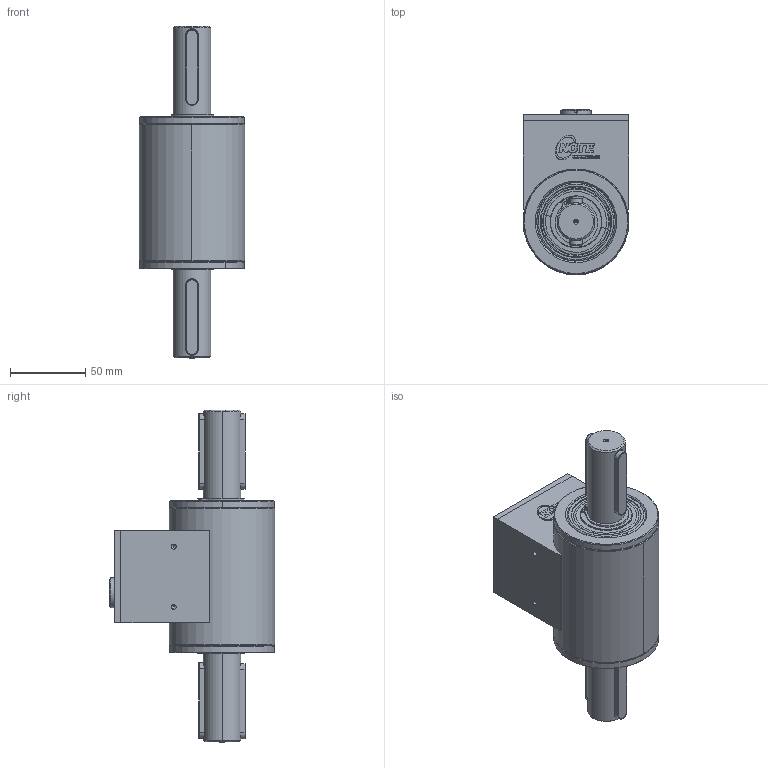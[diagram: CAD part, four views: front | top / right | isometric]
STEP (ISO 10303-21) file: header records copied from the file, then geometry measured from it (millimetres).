
FILE_DESCRIPTION (( 'STEP AP214' ), '1' );
FILE_NAME ('400007-ATS015_Sensor_Mb_250-500Nm_Rund_ohne_WS_IP50.STEP', '2016-11-28T15:53:01', ( '' ), ( '' ), 'SwSTEP 2.0', 'SolidWorks 2016', '' );
FILE_SCHEMA (( 'AUTOMOTIVE_DESIGN' ));
Length unit declared in the file: millimetre
Products named in the file (28): 999999-ATN173_Rillenkugellager_6205-2Z_Standard_12; 999999-ATN173_Rillenkugellager_6205-2Z_Standard_4; 999999-ATM007-Tellerfeder_k_vorgespannt51,5x35,5_Standard; Passscheibe DIN 988_DIN 988-42x52x1; 400007-ATM013_Lagerdeckel_Mb-250-500Nm; DIN 7991 - M3 x 10 --- 10S_DIN 7991 - M3 x 10 --- 10S; 999999-ATN173_Rillenkugellager_6205-2Z_Standard_5; 400007-ATM003_Welle25mm_Mb_250-500Nm; DIN 7991 - M4 x 10 --- 10S_DIN 7991 - M4 x 10 --- 10S; 400007-ATM019_Deckel_Elektronikgehäuse_Mb_250-500Nm; 400007-ATS015_Sensor_Mb_250-500Nm_Rund_ohne_WS_IP50; Parallel key A8 x 7 x 50 DIN 6885_Parallel key A8 x 7 x 50 DIN 6885; 999999-ATE072_Folientaster beleuchtet_Standard; 400007-ATM010_Rohrgehaeuse_Mb-250-500Nm; 999999-ATN173_Rillenkugellager_6205-2Z_Standard_7; 999999-ATN173_Rillenkugellager_6205-2Z_Standard_2; 999999-ATN173_Rillenkugellager_6205-2Z_Standard; 999999-ATN173_Rillenkugellager_6205-2Z_Standard_10; 999999-ATN173_Rillenkugellager_6205-2Z_Standard_11; 999999-ATN173_Rillenkugellager_6205-2Z_Standard_9; 999999-ATN173_Rillenkugellager_6205-2Z_Standard_3; 999999-ATN173_Rillenkugellager_6205-2Z_Standard_6; 999999-ATN173_Rillenkugellager_6205-2Z_Standard_13; 999999-ATE042_Buchse-09-0132-90-12_12Pol_Standard; 999999-ATN173_Rillenkugellager_6205-2Z_Standard_8; Seegering DIN 471_Circlip DIN 471 - 25 x 1.2; 400007-ATM016_Elektronikgehaeuse_Mb_250-500Nm
Assembly tree (38 placements, depth 3):
  400007-ATS015_Sensor_Mb_250-500Nm_Rund_ohne_WS_IP50
    400007-ATM003_Welle25mm_Mb_250-500Nm
    400007-ATM010_Rohrgehaeuse_Mb-250-500Nm
    400007-ATM013_Lagerdeckel_Mb-250-500Nm  x2
    400007-ATM016_Elektronikgehaeuse_Mb_250-500Nm
    DIN 7991 - M4 x 10 --- 10S_DIN 7991 - M4 x 10 --- 10S  x2
    DIN 7991 - M3 x 10 --- 10S_DIN 7991 - M3 x 10 --- 10S  x4
    999999-ATE072_Folientaster beleuchtet_Standard
    999999-ATE042_Buchse-09-0132-90-12_12Pol_Standard
    400007-ATM019_Deckel_Elektronikgehäuse_Mb_250-500Nm
    Passscheibe DIN 988_DIN 988-42x52x1  x2
    Seegering DIN 471_Circlip DIN 471 - 25 x 1.2  x2
    999999-ATN173_Rillenkugellager_6205-2Z_Standard  x2
      999999-ATN173_Rillenkugellager_6205-2Z_Standard_9
      999999-ATN173_Rillenkugellager_6205-2Z_Standard_13
      999999-ATN173_Rillenkugellager_6205-2Z_Standard_10
      999999-ATN173_Rillenkugellager_6205-2Z_Standard_3
      999999-ATN173_Rillenkugellager_6205-2Z_Standard_4
      999999-ATN173_Rillenkugellager_6205-2Z_Standard_12
      999999-ATN173_Rillenkugellager_6205-2Z_Standard_7
      999999-ATN173_Rillenkugellager_6205-2Z_Standard_6
      999999-ATN173_Rillenkugellager_6205-2Z_Standard_8
      999999-ATN173_Rillenkugellager_6205-2Z_Standard_2
      999999-ATN173_Rillenkugellager_6205-2Z_Standard_5
      999999-ATN173_Rillenkugellager_6205-2Z_Standard
      999999-ATN173_Rillenkugellager_6205-2Z_Standard_11
    Parallel key A8 x 7 x 50 DIN 6885_Parallel key A8 x 7 x 50 DIN 6885  x4
    999999-ATM007-Tellerfeder_k_vorgespannt51,5x35,5_Standard
Bounding box: 70 x 109.8 x 220 mm (x, y, z)
Surface area: 172366.6 mm2 (no closed solid volume)
Topology: 0 solids, 49 shells, 1714 faces, 3991 edges, 2350 vertices
Faces by surface type: cylinder 540, cone 538, plane 397, bspline 235, torus 4
Entity records: 35901 total; most frequent: CARTESIAN_POINT 10703, DIRECTION 5027, ORIENTED_EDGE 4966, EDGE_CURVE 2483, AXIS2_PLACEMENT_3D 1887, VERTEX_POINT 1557, LINE 1253, VECTOR 1253
